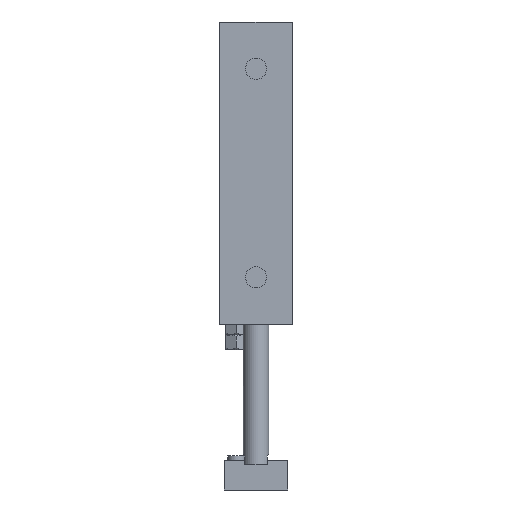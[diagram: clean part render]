
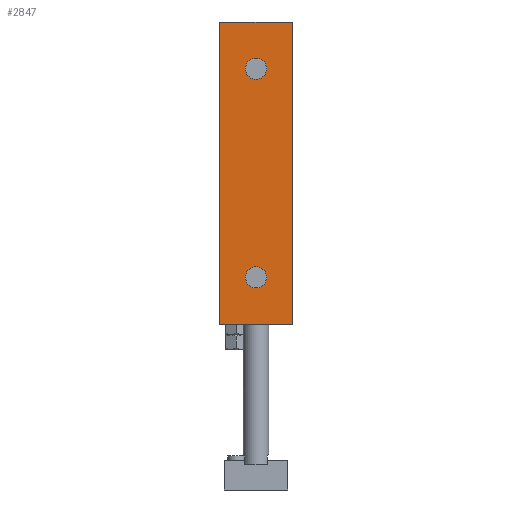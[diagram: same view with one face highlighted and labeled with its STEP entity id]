
A CAD part, front view. The second image highlights one B-rep face of the part: STEP entity #2847.
In plain terms, the highlighted planar face has unit normal (0, -1, 0).
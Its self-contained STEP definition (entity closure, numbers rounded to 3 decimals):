
#195=CARTESIAN_POINT('',(2.5,-21.0,99.0));
#196=VERTEX_POINT('',#195);
#197=CARTESIAN_POINT('',(0.0,-21.0,99.0));
#198=DIRECTION('',(0.0,1.0,0.0));
#199=DIRECTION('',(-1.0,0.0,0.0));
#200=AXIS2_PLACEMENT_3D('',#197,#198,#199);
#201=CIRCLE('',#200,2.5);
#202=EDGE_CURVE('',#196,#196,#201,.T.);
#232=CARTESIAN_POINT('',(2.5,-21.0,50.0));
#233=VERTEX_POINT('',#232);
#234=CARTESIAN_POINT('',(0.0,-21.0,50.0));
#235=DIRECTION('',(0.0,1.0,0.0));
#236=DIRECTION('',(-1.0,0.0,0.0));
#237=AXIS2_PLACEMENT_3D('',#234,#235,#236);
#238=CIRCLE('',#237,2.5);
#239=EDGE_CURVE('',#233,#233,#238,.T.);
#2662=CARTESIAN_POINT('',(-8.5,-21.0,110.0));
#2663=VERTEX_POINT('',#2662);
#2670=CARTESIAN_POINT('',(8.5,-21.0,110.0));
#2671=VERTEX_POINT('',#2670);
#2672=CARTESIAN_POINT('',(8.5,-21.0,110.0));
#2673=DIRECTION('',(-1.0,0.0,0.0));
#2674=VECTOR('',#2673,17.);
#2675=LINE('',#2672,#2674);
#2676=EDGE_CURVE('',#2671,#2663,#2675,.T.);
#2722=CARTESIAN_POINT('',(8.5,-21.0,39.0));
#2723=VERTEX_POINT('',#2722);
#2724=CARTESIAN_POINT('',(8.5,-21.0,39.0));
#2725=DIRECTION('',(0.0,0.0,1.0));
#2726=VECTOR('',#2725,71.0);
#2727=LINE('',#2724,#2726);
#2728=EDGE_CURVE('',#2723,#2671,#2727,.T.);
#2783=CARTESIAN_POINT('',(-8.5,-21.0,39.0));
#2784=VERTEX_POINT('',#2783);
#2785=CARTESIAN_POINT('',(8.5,-21.0,39.0));
#2786=DIRECTION('',(-1.0,0.0,0.0));
#2787=VECTOR('',#2786,17.);
#2788=LINE('',#2785,#2787);
#2789=EDGE_CURVE('',#2723,#2784,#2788,.T.);
#2825=CARTESIAN_POINT('',(8.5,-21.0,39.0));
#2826=DIRECTION('',(0.0,-1.0,0.0));
#2827=DIRECTION('',(0.0,0.0,-1.0));
#2828=AXIS2_PLACEMENT_3D('',#2825,#2826,#2827);
#2829=PLANE('',#2828);
#2830=ORIENTED_EDGE('',*,*,#2676,.T.);
#2831=CARTESIAN_POINT('',(-8.5,-21.0,39.0));
#2832=DIRECTION('',(0.0,0.0,1.0));
#2833=VECTOR('',#2832,71.0);
#2834=LINE('',#2831,#2833);
#2835=EDGE_CURVE('',#2784,#2663,#2834,.T.);
#2836=ORIENTED_EDGE('',*,*,#2835,.F.);
#2837=ORIENTED_EDGE('',*,*,#2789,.F.);
#2838=ORIENTED_EDGE('',*,*,#2728,.T.);
#2839=EDGE_LOOP('',(#2830,#2836,#2837,#2838));
#2840=FACE_OUTER_BOUND('',#2839,.T.);
#2841=ORIENTED_EDGE('',*,*,#202,.T.);
#2842=EDGE_LOOP('',(#2841));
#2843=FACE_BOUND('',#2842,.T.);
#2844=ORIENTED_EDGE('',*,*,#239,.T.);
#2845=EDGE_LOOP('',(#2844));
#2846=FACE_BOUND('',#2845,.T.);
#2847=ADVANCED_FACE('',(#2840,#2843,#2846),#2829,.T.);
